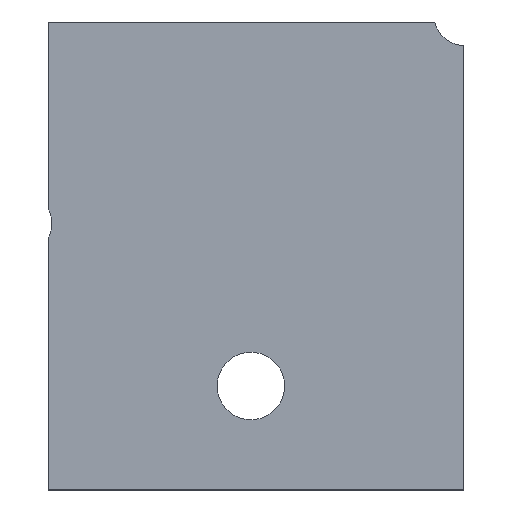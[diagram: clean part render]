
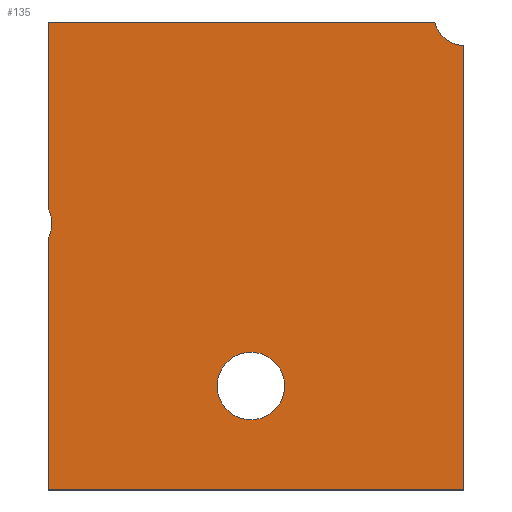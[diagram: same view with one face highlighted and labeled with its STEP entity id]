
A CAD part, top view. The second image highlights one B-rep face of the part: STEP entity #135.
In plain terms, the highlighted planar face has unit normal (0, 0, 1).
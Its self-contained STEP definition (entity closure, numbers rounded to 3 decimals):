
#21 = EDGE_CURVE('',#22,#24,#26,.T.);
#22 = VERTEX_POINT('',#23);
#23 = CARTESIAN_POINT('',(-15.,6.5,13.7));
#24 = VERTEX_POINT('',#25);
#25 = CARTESIAN_POINT('',(-15.,25.864,13.7));
#26 = SURFACE_CURVE('',#27,(#31,#43),.PCURVE_S1.);
#27 = LINE('',#28,#29);
#28 = CARTESIAN_POINT('',(-15.,6.5,13.7));
#29 = VECTOR('',#30,1.);
#30 = DIRECTION('',(-0.,1.,0.));
#31 = PCURVE('',#32,#37);
#32 = PLANE('',#33);
#33 = AXIS2_PLACEMENT_3D('',#34,#35,#36);
#34 = CARTESIAN_POINT('',(-15.,6.5,13.2));
#35 = DIRECTION('',(1.,0.,-0.));
#36 = DIRECTION('',(0.,0.,1.));
#37 = DEFINITIONAL_REPRESENTATION('',(#38),#42);
#38 = LINE('',#39,#40);
#39 = CARTESIAN_POINT('',(0.5,0.));
#40 = VECTOR('',#41,1.);
#41 = DIRECTION('',(0.,-1.));
#42 = ( GEOMETRIC_REPRESENTATION_CONTEXT(2) 
PARAMETRIC_REPRESENTATION_CONTEXT() REPRESENTATION_CONTEXT('2D SPACE',''
  ) );
#43 = PCURVE('',#44,#49);
#44 = PLANE('',#45);
#45 = AXIS2_PLACEMENT_3D('',#46,#47,#48);
#46 = CARTESIAN_POINT('',(-15.,6.5,13.7));
#47 = DIRECTION('',(0.,0.,1.));
#48 = DIRECTION('',(1.,0.,-0.));
#49 = DEFINITIONAL_REPRESENTATION('',(#50),#54);
#50 = LINE('',#51,#52);
#51 = CARTESIAN_POINT('',(0.,0.));
#52 = VECTOR('',#53,1.);
#53 = DIRECTION('',(0.,1.));
#54 = ( GEOMETRIC_REPRESENTATION_CONTEXT(2) 
PARAMETRIC_REPRESENTATION_CONTEXT() REPRESENTATION_CONTEXT('2D SPACE',''
  ) );
#72 = PLANE('',#73);
#73 = AXIS2_PLACEMENT_3D('',#74,#75,#76);
#74 = CARTESIAN_POINT('',(-15.,6.5,13.2));
#75 = DIRECTION('',(-0.,1.,0.));
#76 = DIRECTION('',(0.,0.,1.));
#125 = CYLINDRICAL_SURFACE('',#126,2.3);
#126 = AXIS2_PLACEMENT_3D('',#127,#128,#129);
#127 = CARTESIAN_POINT('',(-17.,27.,13.));
#128 = DIRECTION('',(0.,0.,1.));
#129 = DIRECTION('',(1.,0.,-0.));
#135 = ADVANCED_FACE('',(#136,#326),#44,.T.);
#136 = FACE_BOUND('',#137,.T.);
#137 = EDGE_LOOP('',(#138,#139,#162,#190,#219,#247,#275,#304));
#138 = ORIENTED_EDGE('',*,*,#21,.F.);
#139 = ORIENTED_EDGE('',*,*,#140,.T.);
#140 = EDGE_CURVE('',#22,#141,#143,.T.);
#141 = VERTEX_POINT('',#142);
#142 = CARTESIAN_POINT('',(17.,6.5,13.7));
#143 = SURFACE_CURVE('',#144,(#148,#155),.PCURVE_S1.);
#144 = LINE('',#145,#146);
#145 = CARTESIAN_POINT('',(-15.,6.5,13.7));
#146 = VECTOR('',#147,1.);
#147 = DIRECTION('',(1.,0.,-0.));
#148 = PCURVE('',#44,#149);
#149 = DEFINITIONAL_REPRESENTATION('',(#150),#154);
#150 = LINE('',#151,#152);
#151 = CARTESIAN_POINT('',(0.,0.));
#152 = VECTOR('',#153,1.);
#153 = DIRECTION('',(1.,0.));
#154 = ( GEOMETRIC_REPRESENTATION_CONTEXT(2) 
PARAMETRIC_REPRESENTATION_CONTEXT() REPRESENTATION_CONTEXT('2D SPACE',''
  ) );
#155 = PCURVE('',#72,#156);
#156 = DEFINITIONAL_REPRESENTATION('',(#157),#161);
#157 = LINE('',#158,#159);
#158 = CARTESIAN_POINT('',(0.5,0.));
#159 = VECTOR('',#160,1.);
#160 = DIRECTION('',(0.,1.));
#161 = ( GEOMETRIC_REPRESENTATION_CONTEXT(2) 
PARAMETRIC_REPRESENTATION_CONTEXT() REPRESENTATION_CONTEXT('2D SPACE',''
  ) );
#162 = ORIENTED_EDGE('',*,*,#163,.T.);
#163 = EDGE_CURVE('',#141,#164,#166,.T.);
#164 = VERTEX_POINT('',#165);
#165 = CARTESIAN_POINT('',(17.,40.7,13.7));
#166 = SURFACE_CURVE('',#167,(#171,#178),.PCURVE_S1.);
#167 = LINE('',#168,#169);
#168 = CARTESIAN_POINT('',(17.,6.5,13.7));
#169 = VECTOR('',#170,1.);
#170 = DIRECTION('',(-0.,1.,0.));
#171 = PCURVE('',#44,#172);
#172 = DEFINITIONAL_REPRESENTATION('',(#173),#177);
#173 = LINE('',#174,#175);
#174 = CARTESIAN_POINT('',(32.,0.));
#175 = VECTOR('',#176,1.);
#176 = DIRECTION('',(0.,1.));
#177 = ( GEOMETRIC_REPRESENTATION_CONTEXT(2) 
PARAMETRIC_REPRESENTATION_CONTEXT() REPRESENTATION_CONTEXT('2D SPACE',''
  ) );
#178 = PCURVE('',#179,#184);
#179 = PLANE('',#180);
#180 = AXIS2_PLACEMENT_3D('',#181,#182,#183);
#181 = CARTESIAN_POINT('',(17.,6.5,13.2));
#182 = DIRECTION('',(1.,0.,-0.));
#183 = DIRECTION('',(0.,0.,1.));
#184 = DEFINITIONAL_REPRESENTATION('',(#185),#189);
#185 = LINE('',#186,#187);
#186 = CARTESIAN_POINT('',(0.5,0.));
#187 = VECTOR('',#188,1.);
#188 = DIRECTION('',(0.,-1.));
#189 = ( GEOMETRIC_REPRESENTATION_CONTEXT(2) 
PARAMETRIC_REPRESENTATION_CONTEXT() REPRESENTATION_CONTEXT('2D SPACE',''
  ) );
#190 = ORIENTED_EDGE('',*,*,#191,.F.);
#191 = EDGE_CURVE('',#192,#164,#194,.T.);
#192 = VERTEX_POINT('',#193);
#193 = CARTESIAN_POINT('',(14.755,42.5,13.7));
#194 = SURFACE_CURVE('',#195,(#200,#207),.PCURVE_S1.);
#195 = CIRCLE('',#196,2.3);
#196 = AXIS2_PLACEMENT_3D('',#197,#198,#199);
#197 = CARTESIAN_POINT('',(17.,43.,13.7));
#198 = DIRECTION('',(0.,0.,1.));
#199 = DIRECTION('',(1.,0.,-0.));
#200 = PCURVE('',#44,#201);
#201 = DEFINITIONAL_REPRESENTATION('',(#202),#206);
#202 = CIRCLE('',#203,2.3);
#203 = AXIS2_PLACEMENT_2D('',#204,#205);
#204 = CARTESIAN_POINT('',(32.,36.5));
#205 = DIRECTION('',(1.,0.));
#206 = ( GEOMETRIC_REPRESENTATION_CONTEXT(2) 
PARAMETRIC_REPRESENTATION_CONTEXT() REPRESENTATION_CONTEXT('2D SPACE',''
  ) );
#207 = PCURVE('',#208,#213);
#208 = CYLINDRICAL_SURFACE('',#209,2.3);
#209 = AXIS2_PLACEMENT_3D('',#210,#211,#212);
#210 = CARTESIAN_POINT('',(17.,43.,13.));
#211 = DIRECTION('',(0.,0.,1.));
#212 = DIRECTION('',(1.,0.,-0.));
#213 = DEFINITIONAL_REPRESENTATION('',(#214),#218);
#214 = LINE('',#215,#216);
#215 = CARTESIAN_POINT('',(0.,0.7));
#216 = VECTOR('',#217,1.);
#217 = DIRECTION('',(1.,0.));
#218 = ( GEOMETRIC_REPRESENTATION_CONTEXT(2) 
PARAMETRIC_REPRESENTATION_CONTEXT() REPRESENTATION_CONTEXT('2D SPACE',''
  ) );
#219 = ORIENTED_EDGE('',*,*,#220,.F.);
#220 = EDGE_CURVE('',#221,#192,#223,.T.);
#221 = VERTEX_POINT('',#222);
#222 = CARTESIAN_POINT('',(-15.,42.5,13.7));
#223 = SURFACE_CURVE('',#224,(#228,#235),.PCURVE_S1.);
#224 = LINE('',#225,#226);
#225 = CARTESIAN_POINT('',(-15.,42.5,13.7));
#226 = VECTOR('',#227,1.);
#227 = DIRECTION('',(1.,0.,-0.));
#228 = PCURVE('',#44,#229);
#229 = DEFINITIONAL_REPRESENTATION('',(#230),#234);
#230 = LINE('',#231,#232);
#231 = CARTESIAN_POINT('',(0.,36.));
#232 = VECTOR('',#233,1.);
#233 = DIRECTION('',(1.,0.));
#234 = ( GEOMETRIC_REPRESENTATION_CONTEXT(2) 
PARAMETRIC_REPRESENTATION_CONTEXT() REPRESENTATION_CONTEXT('2D SPACE',''
  ) );
#235 = PCURVE('',#236,#241);
#236 = PLANE('',#237);
#237 = AXIS2_PLACEMENT_3D('',#238,#239,#240);
#238 = CARTESIAN_POINT('',(-15.,42.5,13.2));
#239 = DIRECTION('',(-0.,1.,0.));
#240 = DIRECTION('',(0.,0.,1.));
#241 = DEFINITIONAL_REPRESENTATION('',(#242),#246);
#242 = LINE('',#243,#244);
#243 = CARTESIAN_POINT('',(0.5,0.));
#244 = VECTOR('',#245,1.);
#245 = DIRECTION('',(0.,1.));
#246 = ( GEOMETRIC_REPRESENTATION_CONTEXT(2) 
PARAMETRIC_REPRESENTATION_CONTEXT() REPRESENTATION_CONTEXT('2D SPACE',''
  ) );
#247 = ORIENTED_EDGE('',*,*,#248,.F.);
#248 = EDGE_CURVE('',#249,#221,#251,.T.);
#249 = VERTEX_POINT('',#250);
#250 = CARTESIAN_POINT('',(-15.,28.136,13.7));
#251 = SURFACE_CURVE('',#252,(#256,#263),.PCURVE_S1.);
#252 = LINE('',#253,#254);
#253 = CARTESIAN_POINT('',(-15.,6.5,13.7));
#254 = VECTOR('',#255,1.);
#255 = DIRECTION('',(-0.,1.,0.));
#256 = PCURVE('',#44,#257);
#257 = DEFINITIONAL_REPRESENTATION('',(#258),#262);
#258 = LINE('',#259,#260);
#259 = CARTESIAN_POINT('',(0.,0.));
#260 = VECTOR('',#261,1.);
#261 = DIRECTION('',(0.,1.));
#262 = ( GEOMETRIC_REPRESENTATION_CONTEXT(2) 
PARAMETRIC_REPRESENTATION_CONTEXT() REPRESENTATION_CONTEXT('2D SPACE',''
  ) );
#263 = PCURVE('',#264,#269);
#264 = PLANE('',#265);
#265 = AXIS2_PLACEMENT_3D('',#266,#267,#268);
#266 = CARTESIAN_POINT('',(-15.,6.5,13.2));
#267 = DIRECTION('',(1.,0.,-0.));
#268 = DIRECTION('',(0.,0.,1.));
#269 = DEFINITIONAL_REPRESENTATION('',(#270),#274);
#270 = LINE('',#271,#272);
#271 = CARTESIAN_POINT('',(0.5,0.));
#272 = VECTOR('',#273,1.);
#273 = DIRECTION('',(0.,-1.));
#274 = ( GEOMETRIC_REPRESENTATION_CONTEXT(2) 
PARAMETRIC_REPRESENTATION_CONTEXT() REPRESENTATION_CONTEXT('2D SPACE',''
  ) );
#275 = ORIENTED_EDGE('',*,*,#276,.F.);
#276 = EDGE_CURVE('',#277,#249,#279,.T.);
#277 = VERTEX_POINT('',#278);
#278 = CARTESIAN_POINT('',(-14.7,27.,13.7));
#279 = SURFACE_CURVE('',#280,(#285,#292),.PCURVE_S1.);
#280 = CIRCLE('',#281,2.3);
#281 = AXIS2_PLACEMENT_3D('',#282,#283,#284);
#282 = CARTESIAN_POINT('',(-17.,27.,13.7));
#283 = DIRECTION('',(0.,0.,1.));
#284 = DIRECTION('',(1.,0.,-0.));
#285 = PCURVE('',#44,#286);
#286 = DEFINITIONAL_REPRESENTATION('',(#287),#291);
#287 = CIRCLE('',#288,2.3);
#288 = AXIS2_PLACEMENT_2D('',#289,#290);
#289 = CARTESIAN_POINT('',(-2.,20.5));
#290 = DIRECTION('',(1.,0.));
#291 = ( GEOMETRIC_REPRESENTATION_CONTEXT(2) 
PARAMETRIC_REPRESENTATION_CONTEXT() REPRESENTATION_CONTEXT('2D SPACE',''
  ) );
#292 = PCURVE('',#293,#298);
#293 = CYLINDRICAL_SURFACE('',#294,2.3);
#294 = AXIS2_PLACEMENT_3D('',#295,#296,#297);
#295 = CARTESIAN_POINT('',(-17.,27.,13.));
#296 = DIRECTION('',(0.,0.,1.));
#297 = DIRECTION('',(1.,0.,-0.));
#298 = DEFINITIONAL_REPRESENTATION('',(#299),#303);
#299 = LINE('',#300,#301);
#300 = CARTESIAN_POINT('',(0.,0.7));
#301 = VECTOR('',#302,1.);
#302 = DIRECTION('',(1.,0.));
#303 = ( GEOMETRIC_REPRESENTATION_CONTEXT(2) 
PARAMETRIC_REPRESENTATION_CONTEXT() REPRESENTATION_CONTEXT('2D SPACE',''
  ) );
#304 = ORIENTED_EDGE('',*,*,#305,.F.);
#305 = EDGE_CURVE('',#24,#277,#306,.T.);
#306 = SURFACE_CURVE('',#307,(#312,#319),.PCURVE_S1.);
#307 = CIRCLE('',#308,2.3);
#308 = AXIS2_PLACEMENT_3D('',#309,#310,#311);
#309 = CARTESIAN_POINT('',(-17.,27.,13.7));
#310 = DIRECTION('',(0.,0.,1.));
#311 = DIRECTION('',(1.,0.,-0.));
#312 = PCURVE('',#44,#313);
#313 = DEFINITIONAL_REPRESENTATION('',(#314),#318);
#314 = CIRCLE('',#315,2.3);
#315 = AXIS2_PLACEMENT_2D('',#316,#317);
#316 = CARTESIAN_POINT('',(-2.,20.5));
#317 = DIRECTION('',(1.,0.));
#318 = ( GEOMETRIC_REPRESENTATION_CONTEXT(2) 
PARAMETRIC_REPRESENTATION_CONTEXT() REPRESENTATION_CONTEXT('2D SPACE',''
  ) );
#319 = PCURVE('',#125,#320);
#320 = DEFINITIONAL_REPRESENTATION('',(#321),#325);
#321 = LINE('',#322,#323);
#322 = CARTESIAN_POINT('',(0.,0.7));
#323 = VECTOR('',#324,1.);
#324 = DIRECTION('',(1.,0.));
#325 = ( GEOMETRIC_REPRESENTATION_CONTEXT(2) 
PARAMETRIC_REPRESENTATION_CONTEXT() REPRESENTATION_CONTEXT('2D SPACE',''
  ) );
#326 = FACE_BOUND('',#327,.T.);
#327 = EDGE_LOOP('',(#328));
#328 = ORIENTED_EDGE('',*,*,#329,.F.);
#329 = EDGE_CURVE('',#330,#330,#332,.T.);
#330 = VERTEX_POINT('',#331);
#331 = CARTESIAN_POINT('',(3.2,14.5,13.7));
#332 = SURFACE_CURVE('',#333,(#338,#345),.PCURVE_S1.);
#333 = CIRCLE('',#334,2.6);
#334 = AXIS2_PLACEMENT_3D('',#335,#336,#337);
#335 = CARTESIAN_POINT('',(0.6,14.5,13.7));
#336 = DIRECTION('',(0.,0.,1.));
#337 = DIRECTION('',(1.,0.,-0.));
#338 = PCURVE('',#44,#339);
#339 = DEFINITIONAL_REPRESENTATION('',(#340),#344);
#340 = CIRCLE('',#341,2.6);
#341 = AXIS2_PLACEMENT_2D('',#342,#343);
#342 = CARTESIAN_POINT('',(15.6,8.));
#343 = DIRECTION('',(1.,0.));
#344 = ( GEOMETRIC_REPRESENTATION_CONTEXT(2) 
PARAMETRIC_REPRESENTATION_CONTEXT() REPRESENTATION_CONTEXT('2D SPACE',''
  ) );
#345 = PCURVE('',#346,#351);
#346 = CYLINDRICAL_SURFACE('',#347,2.6);
#347 = AXIS2_PLACEMENT_3D('',#348,#349,#350);
#348 = CARTESIAN_POINT('',(0.6,14.5,13.));
#349 = DIRECTION('',(0.,0.,1.));
#350 = DIRECTION('',(1.,0.,-0.));
#351 = DEFINITIONAL_REPRESENTATION('',(#352),#356);
#352 = LINE('',#353,#354);
#353 = CARTESIAN_POINT('',(0.,0.7));
#354 = VECTOR('',#355,1.);
#355 = DIRECTION('',(1.,0.));
#356 = ( GEOMETRIC_REPRESENTATION_CONTEXT(2) 
PARAMETRIC_REPRESENTATION_CONTEXT() REPRESENTATION_CONTEXT('2D SPACE',''
  ) );
